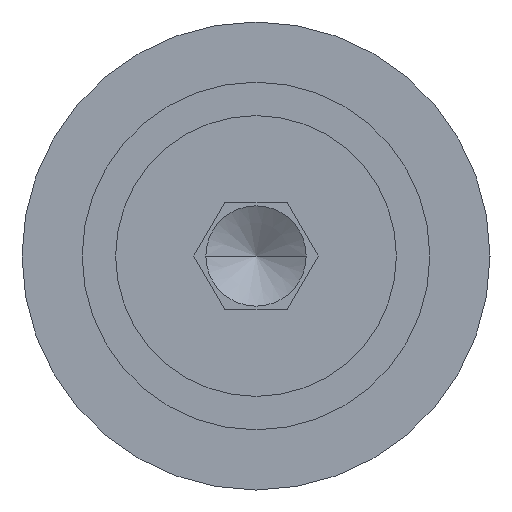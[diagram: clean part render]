
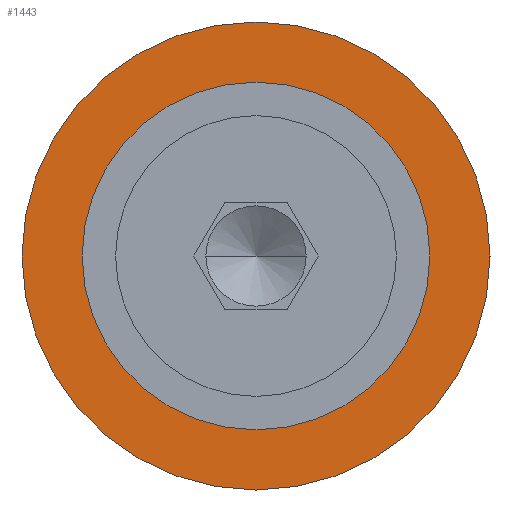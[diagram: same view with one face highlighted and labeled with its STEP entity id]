
A CAD part, left-side view. The second image highlights one B-rep face of the part: STEP entity #1443.
In plain terms, the highlighted planar face has unit normal (-1, 0, 0).
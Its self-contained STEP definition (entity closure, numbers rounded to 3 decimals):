
#24 = DIRECTION ( 'NONE',  ( 1., 0., 0. ) ) ;
#47 = ORIENTED_EDGE ( 'NONE', *, *, #2245, .F. ) ;
#161 = DIRECTION ( 'NONE',  ( 0., 0., 1. ) ) ;
#197 = DIRECTION ( 'NONE',  ( -1., 0., 0. ) ) ;
#297 = FACE_OUTER_BOUND ( 'NONE', #675, .T. ) ;
#343 = CARTESIAN_POINT ( 'NONE',  ( -20., 17.5, 0. ) ) ;
#403 = ORIENTED_EDGE ( 'NONE', *, *, #856, .T. ) ;
#415 = CIRCLE ( 'NONE', #1643, 17.5 ) ;
#505 = DIRECTION ( 'NONE',  ( 0., 0., 1. ) ) ;
#518 = AXIS2_PLACEMENT_3D ( 'NONE', #1081, #1230, #161 ) ;
#617 = DIRECTION ( 'NONE',  ( 0., 0., 1. ) ) ;
#636 = CIRCLE ( 'NONE', #518, 12. ) ;
#671 = VERTEX_POINT ( 'NONE', #740 ) ;
#675 = EDGE_LOOP ( 'NONE', ( #403, #720 ) ) ;
#681 = EDGE_CURVE ( 'NONE', #1974, #671, #636, .T. ) ;
#720 = ORIENTED_EDGE ( 'NONE', *, *, #2125, .T. ) ;
#721 = AXIS2_PLACEMENT_3D ( 'NONE', #2358, #197, #505 ) ;
#740 = CARTESIAN_POINT ( 'NONE',  ( -20., 0., -12. ) ) ;
#856 = EDGE_CURVE ( 'NONE', #869, #1841, #2298, .T. ) ;
#869 = VERTEX_POINT ( 'NONE', #2197 ) ;
#976 = CARTESIAN_POINT ( 'NONE',  ( -20., 0., -17.5 ) ) ;
#1033 = PLANE ( 'NONE',  #2341 ) ;
#1034 = DIRECTION ( 'NONE',  ( -1., 0., 0. ) ) ;
#1081 = CARTESIAN_POINT ( 'NONE',  ( -20., 0., 0. ) ) ;
#1230 = DIRECTION ( 'NONE',  ( -1., 0., 0. ) ) ;
#1375 = AXIS2_PLACEMENT_3D ( 'NONE', #1566, #1034, #2316 ) ;
#1408 = CIRCLE ( 'NONE', #1375, 12. ) ;
#1443 = ADVANCED_FACE ( 'NONE', ( #1946, #297 ), #1033, .F. ) ;
#1502 = DIRECTION ( 'NONE',  ( -1., 0., 0. ) ) ;
#1513 = CARTESIAN_POINT ( 'NONE',  ( -20., 0., 0. ) ) ;
#1556 = EDGE_LOOP ( 'NONE', ( #2011, #47 ) ) ;
#1566 = CARTESIAN_POINT ( 'NONE',  ( -20., 0., 0. ) ) ;
#1643 = AXIS2_PLACEMENT_3D ( 'NONE', #1513, #1502, #617 ) ;
#1841 = VERTEX_POINT ( 'NONE', #976 ) ;
#1946 = FACE_BOUND ( 'NONE', #1556, .T. ) ;
#1974 = VERTEX_POINT ( 'NONE', #2281 ) ;
#2011 = ORIENTED_EDGE ( 'NONE', *, *, #681, .F. ) ;
#2017 = DIRECTION ( 'NONE',  ( 0., 0., -1. ) ) ;
#2125 = EDGE_CURVE ( 'NONE', #1841, #869, #415, .T. ) ;
#2197 = CARTESIAN_POINT ( 'NONE',  ( -20., 0., 17.5 ) ) ;
#2245 = EDGE_CURVE ( 'NONE', #671, #1974, #1408, .T. ) ;
#2281 = CARTESIAN_POINT ( 'NONE',  ( -20., 0., 12. ) ) ;
#2298 = CIRCLE ( 'NONE', #721, 17.5 ) ;
#2316 = DIRECTION ( 'NONE',  ( 0., 0., 1. ) ) ;
#2341 = AXIS2_PLACEMENT_3D ( 'NONE', #343, #24, #2017 ) ;
#2358 = CARTESIAN_POINT ( 'NONE',  ( -20., 0., 0. ) ) ;
